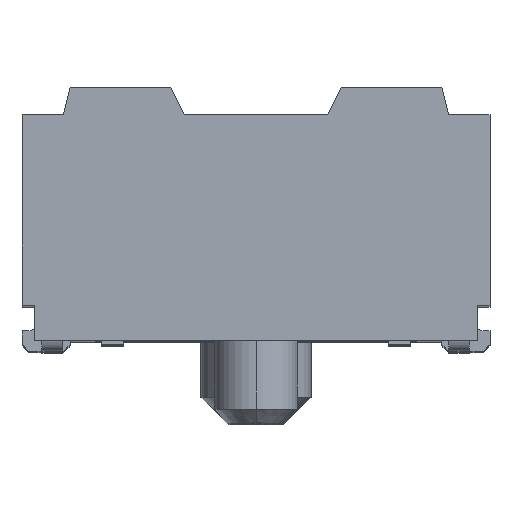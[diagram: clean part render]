
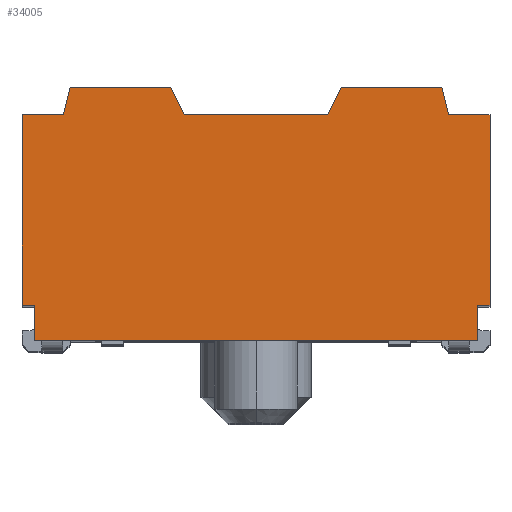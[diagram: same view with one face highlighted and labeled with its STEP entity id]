
A CAD part, top view. The second image highlights one B-rep face of the part: STEP entity #34005.
In plain terms, the highlighted planar face has unit normal (0, 0, 1).
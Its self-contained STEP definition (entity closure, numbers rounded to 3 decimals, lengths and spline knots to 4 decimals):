
#67=DIRECTION('',(-1.,0.,0.));
#68=VECTOR('',#67,0.3);
#69=CARTESIAN_POINT('',(-1.4,1.64,16.55));
#70=LINE('',#69,#68);
#71=DIRECTION('',(-0.243,-0.97,0.));
#72=VECTOR('',#71,0.2062);
#73=CARTESIAN_POINT('',(-1.35,1.84,16.55));
#74=LINE('',#73,#72);
#75=DIRECTION('',(-1.,0.,0.));
#76=VECTOR('',#75,0.73);
#77=CARTESIAN_POINT('',(-0.62,1.84,16.55));
#78=LINE('',#77,#76);
#79=DIRECTION('',(-0.447,0.894,0.));
#80=VECTOR('',#79,0.2236);
#81=CARTESIAN_POINT('',(-0.52,1.64,16.55));
#82=LINE('',#81,#80);
#83=DIRECTION('',(-1.,0.,0.));
#84=VECTOR('',#83,1.04);
#85=CARTESIAN_POINT('',(0.52,1.64,16.55));
#86=LINE('',#85,#84);
#87=DIRECTION('',(-0.447,-0.894,0.));
#88=VECTOR('',#87,0.2236);
#89=CARTESIAN_POINT('',(0.62,1.84,16.55));
#90=LINE('',#89,#88);
#91=DIRECTION('',(-1.,0.,0.));
#92=VECTOR('',#91,0.73);
#93=CARTESIAN_POINT('',(1.35,1.84,16.55));
#94=LINE('',#93,#92);
#95=DIRECTION('',(-0.243,0.97,0.));
#96=VECTOR('',#95,0.2062);
#97=CARTESIAN_POINT('',(1.4,1.64,16.55));
#98=LINE('',#97,#96);
#99=DIRECTION('',(0.,1.,0.));
#100=VECTOR('',#99,0.255);
#101=CARTESIAN_POINT('',(1.61,0.,16.55));
#102=LINE('',#101,#100);
#103=DIRECTION('',(1.,0.,0.));
#104=VECTOR('',#103,3.22);
#105=CARTESIAN_POINT('',(-1.61,0.,16.55));
#106=LINE('',#105,#104);
#107=DIRECTION('',(0.,-1.,0.));
#108=VECTOR('',#107,0.255);
#109=CARTESIAN_POINT('',(-1.61,0.255,16.55));
#110=LINE('',#109,#108);
#131=DIRECTION('',(0.,1.,0.));
#132=VECTOR('',#131,1.385);
#133=CARTESIAN_POINT('',(-1.7,0.255,16.55));
#134=LINE('',#133,#132);
#2671=DIRECTION('',(0.,-1.,0.));
#2672=VECTOR('',#2671,1.385);
#2673=CARTESIAN_POINT('',(1.7,1.64,16.55));
#2674=LINE('',#2673,#2672);
#2951=DIRECTION('',(-1.,0.,0.));
#2952=VECTOR('',#2951,0.09);
#2953=CARTESIAN_POINT('',(1.7,0.255,16.55));
#2954=LINE('',#2953,#2952);
#3475=DIRECTION('',(-1.,0.,0.));
#3476=VECTOR('',#3475,0.09);
#3477=CARTESIAN_POINT('',(-1.61,0.255,16.55));
#3478=LINE('',#3477,#3476);
#18999=DIRECTION('',(1.,0.,0.));
#19000=VECTOR('',#18999,0.3);
#19001=CARTESIAN_POINT('',(1.4,1.64,16.55));
#19002=LINE('',#19001,#19000);
#30347=CARTESIAN_POINT('',(-1.7,0.255,16.55));
#30348=CARTESIAN_POINT('',(-1.7,1.64,16.55));
#30349=VERTEX_POINT('',#30347);
#30350=VERTEX_POINT('',#30348);
#30477=CARTESIAN_POINT('',(-1.61,0.255,16.55));
#30478=VERTEX_POINT('',#30477);
#30539=CARTESIAN_POINT('',(1.7,0.255,16.55));
#30540=CARTESIAN_POINT('',(1.61,0.255,16.55));
#30541=VERTEX_POINT('',#30539);
#30542=VERTEX_POINT('',#30540);
#30731=CARTESIAN_POINT('',(1.7,1.64,16.55));
#30732=VERTEX_POINT('',#30731);
#31163=CARTESIAN_POINT('',(0.52,1.64,16.55));
#31164=CARTESIAN_POINT('',(-0.52,1.64,16.55));
#31165=VERTEX_POINT('',#31163);
#31166=VERTEX_POINT('',#31164);
#31167=CARTESIAN_POINT('',(-1.61,0.,16.55));
#31168=VERTEX_POINT('',#31167);
#31169=CARTESIAN_POINT('',(1.61,0.,16.55));
#31170=VERTEX_POINT('',#31169);
#31171=CARTESIAN_POINT('',(1.4,1.64,16.55));
#31172=VERTEX_POINT('',#31171);
#31173=CARTESIAN_POINT('',(1.35,1.84,16.55));
#31174=VERTEX_POINT('',#31173);
#31175=CARTESIAN_POINT('',(0.62,1.84,16.55));
#31176=VERTEX_POINT('',#31175);
#31177=CARTESIAN_POINT('',(-0.62,1.84,16.55));
#31178=VERTEX_POINT('',#31177);
#31179=CARTESIAN_POINT('',(-1.35,1.84,16.55));
#31180=VERTEX_POINT('',#31179);
#31181=CARTESIAN_POINT('',(-1.4,1.64,16.55));
#31182=VERTEX_POINT('',#31181);
#33967=CARTESIAN_POINT('',(0.,0.92,16.55));
#33968=DIRECTION('',(0.,0.,1.));
#33969=DIRECTION('',(1.,0.,0.));
#33970=AXIS2_PLACEMENT_3D('',#33967,#33968,#33969);
#33971=PLANE('',#33970);
#33973=ORIENTED_EDGE('',*,*,#33972,.T.);
#33975=ORIENTED_EDGE('',*,*,#33974,.F.);
#33977=ORIENTED_EDGE('',*,*,#33976,.F.);
#33979=ORIENTED_EDGE('',*,*,#33978,.F.);
#33981=ORIENTED_EDGE('',*,*,#33980,.F.);
#33983=ORIENTED_EDGE('',*,*,#33982,.F.);
#33985=ORIENTED_EDGE('',*,*,#33984,.F.);
#33987=ORIENTED_EDGE('',*,*,#33986,.F.);
#33989=ORIENTED_EDGE('',*,*,#33988,.F.);
#33991=ORIENTED_EDGE('',*,*,#33990,.T.);
#33993=ORIENTED_EDGE('',*,*,#33992,.T.);
#33995=ORIENTED_EDGE('',*,*,#33994,.T.);
#33997=ORIENTED_EDGE('',*,*,#33996,.F.);
#33998=ORIENTED_EDGE('',*,*,#33944,.F.);
#34000=ORIENTED_EDGE('',*,*,#33999,.F.);
#34002=ORIENTED_EDGE('',*,*,#34001,.T.);
#34003=EDGE_LOOP('',(#33973,#33975,#33977,#33979,#33981,#33983,#33985,#33987,
#33989,#33991,#33993,#33995,#33997,#33998,#34000,#34002));
#34004=FACE_OUTER_BOUND('',#34003,.F.);
#33944=EDGE_CURVE('',#31168,#31170,#106,.T.);
#33972=EDGE_CURVE('',#30349,#30350,#134,.T.);
#33974=EDGE_CURVE('',#31182,#30350,#70,.T.);
#33976=EDGE_CURVE('',#31180,#31182,#74,.T.);
#33978=EDGE_CURVE('',#31178,#31180,#78,.T.);
#33980=EDGE_CURVE('',#31166,#31178,#82,.T.);
#33982=EDGE_CURVE('',#31165,#31166,#86,.T.);
#33984=EDGE_CURVE('',#31176,#31165,#90,.T.);
#33986=EDGE_CURVE('',#31174,#31176,#94,.T.);
#33988=EDGE_CURVE('',#31172,#31174,#98,.T.);
#33990=EDGE_CURVE('',#31172,#30732,#19002,.T.);
#33992=EDGE_CURVE('',#30732,#30541,#2674,.T.);
#33994=EDGE_CURVE('',#30541,#30542,#2954,.T.);
#33996=EDGE_CURVE('',#31170,#30542,#102,.T.);
#33999=EDGE_CURVE('',#30478,#31168,#110,.T.);
#34001=EDGE_CURVE('',#30478,#30349,#3478,.T.);
#34005=ADVANCED_FACE('',(#34004),#33971,.T.);
